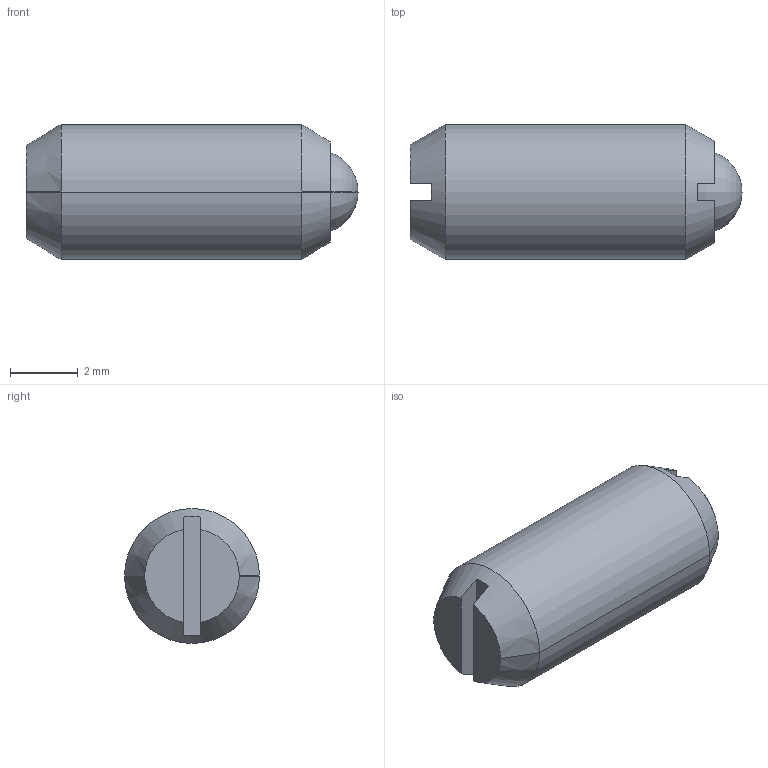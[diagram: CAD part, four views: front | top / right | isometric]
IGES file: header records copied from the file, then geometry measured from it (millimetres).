
Start section:  PTC IGES file: bm4a-part-3d.igs
Global section: file name: bm4a-part-3d.igs; native system: Pro/ENGINEER by Parametric Technology Corporation; preprocessor: 2002350; author: chant; organization: Unknown; date: 070201.134627; units: inch
Bounding box: 9.8 x 3.99 x 3.99 mm (x, y, z)
Surface area: 188.5 mm2 (no closed solid volume)
Topology: 0 solids, 0 shells, 24 faces, 174 edges, 220 vertices
Faces by surface type: revolution 13, bspline 11
